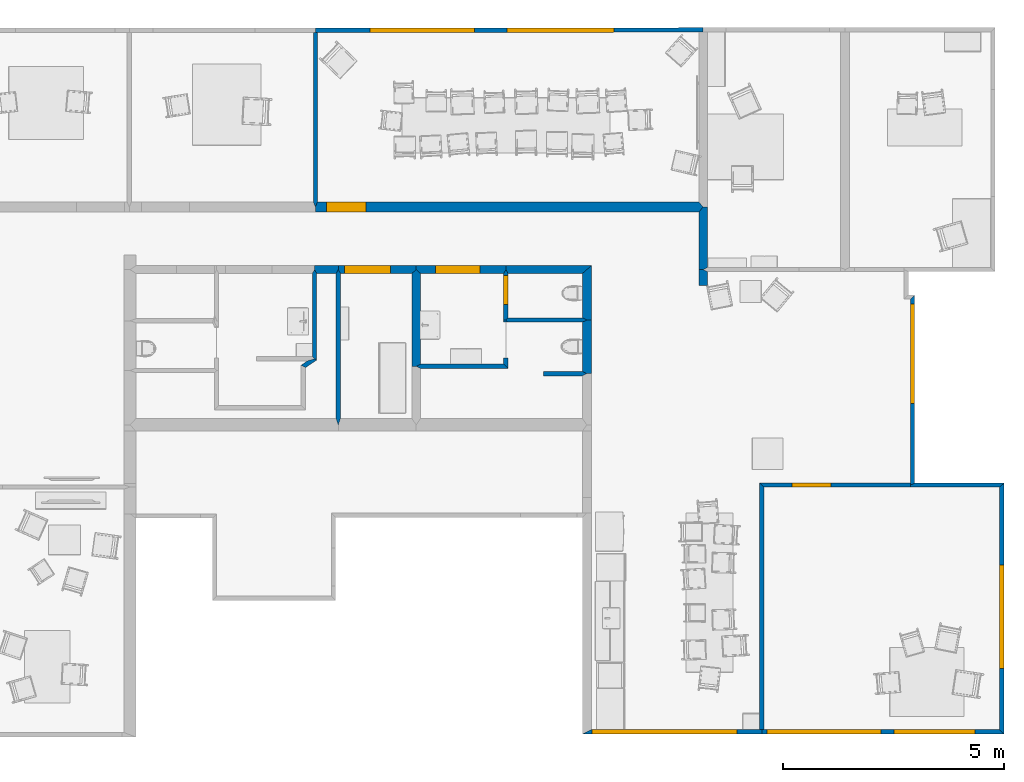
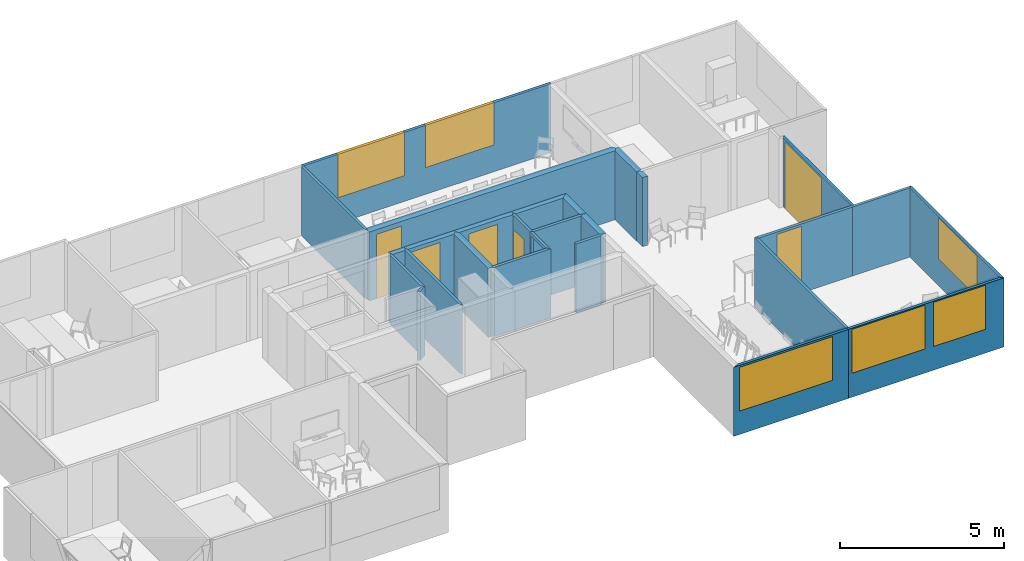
# One storey, part 4 of 26: 27 walls, 6 doors, 6 windows, 13 openings.
"""IFC2X3 building model written with IfcOpenShell, lengths in metres."""

from ifc_helpers import new_model, si_unit, direction, frame, origin_with_axes, place, context, subcontext, project, spatial, polyline, outline, extrude, type_object, element, fill, save


model = new_model("IFC2X3")

# Units and contexts
model_context = context("Model", 3, precision=1e-05, world=origin_with_axes(), true_north=direction((0.996, -0.093, 0.0)))
body_context = subcontext(model_context, "Body", "Model", "MODEL_VIEW")
ifc_project = project(units=[si_unit("AREAUNIT", "SQUARE_METRE"), si_unit("LENGTHUNIT", "METRE")], contexts=[model_context])

# Site, building, storey
site_placement = place(None, origin_with_axes())
site = spatial("IfcSite", under=ifc_project, at=site_placement, Name="Site", CompositionType="ELEMENT")
building_placement = place(site_placement, origin_with_axes())
building = spatial("IfcBuilding", under=site, at=building_placement, Name="Building", CompositionType="ELEMENT")
storey_placement = place(building_placement, frame((0.0, 0.0, 0.0500001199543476), z_axis=(0.0, 0.0, 1.0), x_axis=(1.0, 0.0, 0.0)))
storey = spatial("IfcBuildingStorey", under=building, at=storey_placement, Name="Story 0", CompositionType="ELEMENT", Elevation=0.0500000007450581)

# Wall, opening
wall_type_1 = type_object("IfcWallType", PredefinedType="STANDARD")
wall_1_placement = place(storey_placement, frame((18.5151852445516, 4.59033520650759, 0.0), z_axis=(0.0, 0.0, 1.0), x_axis=(1.0, 0.0, 0.0)))
wall_1 = element("IfcWallStandardCase", 1, at=wall_1_placement, inside=storey, type_object=wall_type_1, Name="Wall", context=body_context, shape_type="SweptSolid", body=[
    extrude(outline(polyline([(0.0, 0.0), (0.0500000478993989, 4.40236300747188e-07), (0.0999990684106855, -0.0499995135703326), (0.100000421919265, -1.09863097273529), (4.81289983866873e-07, -0.998630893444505), (0.0, 0.0)])), origin_with_axes(), (0.0, 0.0, 1.0), 2.57293934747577),
])
opening_1_placement = place(wall_1_placement, frame((0.0, -0.0499994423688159, 0.0), z_axis=(0.0, 0.0, 1.0), x_axis=(0.0, -0.999999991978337, 0.0)))
element("IfcOpeningElement", 2, at=opening_1_placement, cuts=wall_1, Name="OpeningElement", ObjectType="OPENING", context=body_context, shape_type="SweptSolid", body=[
    extrude(outline(polyline([(2.52944366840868e-16, 0.0), (0.804700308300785, 0.0), (0.804700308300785, 2.4519829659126), (2.52944366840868e-16, 2.4519829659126), (2.52944366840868e-16, 0.0)])), frame((0.0, 0.0, 0.0), z_axis=(0.0, -1.0, 0.0), x_axis=(1.0, 0.0, 0.0)), (0.0, 0.0, -1.0), 0.100098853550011),
])

# Walls
wall_type_2 = type_object("IfcWallType", PredefinedType="STANDARD")
wall_2_placement = place(storey_placement, frame((16.6355927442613, 3.49170269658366, 0.0), z_axis=(0.0, 0.0, 1.0), x_axis=(1.0, 0.0, 0.0)))
element("IfcWallStandardCase", 3, at=wall_2_placement, inside=storey, type_object=wall_type_2, Name="Wall", context=body_context, shape_type="SweptSolid", body=[
    extrude(outline(polyline([(0.0, 0.0), (-0.098819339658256, 0.0499996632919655), (6.93307526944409e-08, 0.100000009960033), (1.87959298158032, 0.10000161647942), (1.9795929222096, 1.53718863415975e-06), (0.0, 0.0)])), origin_with_axes(), (0.0, 0.0, 1.0), 2.57293934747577),
])
wall_type_3 = type_object("IfcWallType", PredefinedType="STANDARD")
wall_3_placement = place(storey_placement, frame((20.2917802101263, 3.42640413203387, 0.0), z_axis=(0.0, 0.0, 1.0), x_axis=(1.0, 0.0, 0.0)))
element("IfcWallStandardCase", 4, at=wall_3_placement, inside=storey, type_object=wall_type_3, Name="Wall", context=body_context, shape_type="SweptSolid", body=[
    extrude(outline(polyline([(0.0, 0.0), (-2.24617384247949e-07, 1.11393271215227), (0.101291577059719, 1.16393272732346), (0.202582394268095, 1.1639328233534), (0.202582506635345, -0.0500003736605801), (0.10129173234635, -0.0499999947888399), (0.0, 0.0)])), origin_with_axes(), (0.0, 0.0, 1.0), 2.57293934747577),
])
wall_type_4 = type_object("IfcWallType", PredefinedType="STANDARD")
wall_4_placement = place(storey_placement, frame((19.4136200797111, 3.32640448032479, 0.0), z_axis=(0.0, 0.0, 1.0), x_axis=(1.0, 0.0, 0.0)))
element("IfcWallStandardCase", 5, at=wall_4_placement, inside=storey, type_object=wall_type_4, Name="Wall", context=body_context, shape_type="SweptSolid", body=[
    extrude(outline(polyline([(0.0, 0.0), (6.93307526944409e-08, 0.100000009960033), (0.87816013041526, 0.0999996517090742), (0.979451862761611, 0.0499996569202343), (0.878160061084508, -3.58250959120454e-07), (0.0, 0.0)])), origin_with_axes(), (0.0, 0.0, 1.0), 2.57293934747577),
])
wall_type_5 = type_object("IfcWallType", PredefinedType="STANDARD")
wall_5_placement = place(storey_placement, frame((18.6151843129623, 4.54033569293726, 0.0), z_axis=(0.0, 0.0, 1.0), x_axis=(1.0, 0.0, 0.0)))
element("IfcWallStandardCase", 6, at=wall_5_placement, inside=storey, type_object=wall_type_5, Name="Wall", context=body_context, shape_type="SweptSolid", body=[
    extrude(outline(polyline([(0.0, 0.0), (-0.0499990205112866, 0.0499999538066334), (6.93307526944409e-08, 0.100000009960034), (1.67659574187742, 0.100001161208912), (1.77788747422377, 0.0500011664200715), (1.67659567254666, 1.15124887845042e-06), (0.0, 0.0)])), origin_with_axes(), (0.0, 0.0, 1.0), 2.57293934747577),
])
wall_type_6 = type_object("IfcWallType", PredefinedType="STANDARD")
wall_6_placement = place(storey_placement, frame((22.9254655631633, 5.36495526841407, 0.0), z_axis=(0.0, 0.0, 1.0), x_axis=(1.0, 0.0, 0.0)))
element("IfcWallStandardCase", 7, at=wall_6_placement, inside=storey, type_object=wall_type_6, Name="Wall", context=body_context, shape_type="SweptSolid", body=[
    extrude(outline(polyline([(0.0, 0.0), (4.62721612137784e-07, 0.363935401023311), (0.0947396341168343, 0.363935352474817), (0.18948112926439, 0.317553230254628), (0.189480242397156, -2.68774509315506e-07), (0.0, 0.0)])), origin_with_axes(), (0.0, 0.0, 1.0), 2.57293934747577),
])

# Wall, opening, door
wall_type_7 = type_object("IfcWallType", PredefinedType="STANDARD")
wall_7_placement = place(storey_placement, frame((14.2580460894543, 7.02928854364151, 0.0), z_axis=(0.0, 0.0, 1.0), x_axis=(1.0, 0.0, 0.0)))
wall_7 = element("IfcWallStandardCase", 8, at=wall_7_placement, inside=storey, type_object=wall_type_7, Name="Wall", context=body_context, shape_type="SweptSolid", body=[
    extrude(outline(polyline([(0.0, 0.0), (-1.89992015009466e-07, 0.114025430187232), (0.0463828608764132, 0.228050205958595), (8.66741843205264, 0.228054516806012), (8.76215973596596, 0.114029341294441), (8.66741881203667, 3.65643154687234e-06), (0.0, 0.0)])), origin_with_axes(), (0.0, 0.0, 1.0), 2.57293934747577),
])
opening_2_placement = place(wall_7_placement, frame((0.253527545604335, 0.0, 0.0), z_axis=(0.0, 0.0, 1.0), x_axis=(0.999999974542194, 0.0, 0.0)))
opening_2 = element("IfcOpeningElement", 9, at=opening_2_placement, cuts=wall_7, Name="OpeningElement", ObjectType="OPENING", context=body_context, shape_type="SweptSolid", body=[
    extrude(outline(polyline([(0.0, 0.0), (0.890961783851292, 0.0), (0.890961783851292, 2.4010344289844), (0.0, 2.4010344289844), (0.0, 0.0)])), frame((0.0, 0.0, 0.0), z_axis=(0.0, -1.0, 0.0), x_axis=(1.0, 0.0, 0.0)), (0.0, 0.0, -1.0), 0.228150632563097),
])
door_style_1 = type_object("IfcDoorStyle", Name="1c849949-cf20-4e59-9c2f-f6cb972a5123", ConstructionType="NOTDEFINED", OperationType="NOTDEFINED", ParameterTakesPrecedence=False, Sizeable=False)
door_1_placement = place(opening_2_placement, origin_with_axes())
door_1 = element("IfcDoor", 10, at=door_1_placement, inside=storey, type_object=door_style_1, Name="Door", OverallHeight=2.40103490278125, OverallWidth=0.890961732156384, context=body_context, shape_type="SweptSolid", body=[
    extrude(outline(polyline([(0.0, 0.0), (-0.890961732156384, 0.0), (-0.890961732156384, 2.4010343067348), (0.0, 2.4010343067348), (0.0, 0.0)])), frame((0.0, 0.228050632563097, 0.0), z_axis=(0.0, 1.0, 0.0), x_axis=(-1.0, 0.0, 0.0)), (0.0, 0.0, -1.0), 0.228050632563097),
])
fill(opening_2, door_1)

# Wall, opening, window
wall_type_8 = type_object("IfcWallType", PredefinedType="STANDARD")
wall_8_placement = place(storey_placement, frame((20.2917828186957, -4.76651196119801, 0.0), z_axis=(0.0, 0.0, 1.0), x_axis=(1.0, 0.0, 0.0)))
wall_8 = element("IfcWallStandardCase", 11, at=wall_8_placement, inside=storey, type_object=wall_type_8, Name="Wall", context=body_context, shape_type="SweptSolid", body=[
    extrude(outline(polyline([(0.0, 0.0), (0.202583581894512, 0.0999997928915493), (4.00875872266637, 0.100001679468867), (4.05514107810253, 0.100001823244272), (4.05514100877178, 1.81328423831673e-06), (0.0, 0.0)])), origin_with_axes(), (0.0, 0.0, 1.0), 2.57293934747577),
])
opening_3_placement = place(wall_8_placement, frame((3.49161446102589, 0.100001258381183, 0.872057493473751), z_axis=(0.0, 0.0, 1.0), x_axis=(-0.999999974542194, 0.0, 0.0)))
opening_3 = element("IfcOpeningElement", 12, at=opening_3_placement, cuts=wall_8, Name="OpeningElement", ObjectType="OPENING", context=body_context, shape_type="SweptSolid", body=[
    extrude(outline(polyline([(-3.5527136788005e-15, 0.0), (3.27666114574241, 0.0), (3.27666114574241, 1.63146414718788), (-3.5527136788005e-15, 1.63146414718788), (-3.5527136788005e-15, 0.0)])), frame((0.0, 0.0, 0.0), z_axis=(0.0, -1.0, 0.0), x_axis=(1.0, 0.0, 0.0)), (0.0, 0.0, -1.0), 0.100099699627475),
])
window_style_1 = type_object("IfcWindowStyle", Name="204bdb7a-f476-43cc-86a5-211619529f63", ConstructionType="ALUMINIUM", OperationType="SINGLE_PANEL", ParameterTakesPrecedence=True, Sizeable=True)
window_1_placement = place(opening_3_placement, origin_with_axes())
window_1 = element("IfcWindow", 13, at=window_1_placement, inside=storey, type_object=window_style_1, Name="Window", OverallHeight=1.5, OverallWidth=0.5, context=body_context, shape_type="SweptSolid", body=[
    extrude(outline(polyline([(0.0, 0.0), (-3.27666092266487, 0.0), (-3.27666092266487, 1.63146406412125), (0.0, 1.63146406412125), (0.0, 0.0)])), frame((0.0, 0.0999996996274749, 0.0), z_axis=(0.0, 1.0, 0.0), x_axis=(-1.0, 0.0, 0.0)), (0.0, 0.0, -1.0), 0.0999996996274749),
])
fill(opening_3, window_1)

# Wall
wall_type_9 = type_object("IfcWallType", PredefinedType="STANDARD")
wall_9_placement = place(storey_placement, frame((20.2917800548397, 4.64033685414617, 0.0), z_axis=(0.0, 0.0, 1.0), x_axis=(1.0, 0.0, 0.0)))
element("IfcWallStandardCase", 14, at=wall_9_placement, inside=storey, type_object=wall_type_9, Name="Wall", context=body_context, shape_type="SweptSolid", body=[
    extrude(outline(polyline([(0.0, 0.0), (3.13097373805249e-07, 1.00022899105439), (0.202582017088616, 1.17687621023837), (0.202582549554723, -0.0499998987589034), (0.101291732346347, -0.0499999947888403), (0.0, 0.0)])), origin_with_axes(), (0.0, 0.0, 1.0), 2.57293934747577),
])

# Wall, opening, door
wall_type_10 = type_object("IfcWallType", PredefinedType="STANDARD")
wall_10_placement = place(storey_placement, frame((27.7038624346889, 5.06036561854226, 0.0), z_axis=(0.0, 0.0, 1.0), x_axis=(1.0, 0.0, 0.0)))
wall_10 = element("IfcWallStandardCase", 15, at=wall_10_placement, inside=storey, type_object=wall_type_10, Name="Wall", context=body_context, shape_type="SweptSolid", body=[
    extrude(outline(polyline([(0.0, 0.0), (0.100000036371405, 0.0999994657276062), (0.100001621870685, -4.15631863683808), (1.99313689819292e-06, -4.20270094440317), (1.61191065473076e-06, -4.15631856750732), (0.0, 0.0)])), origin_with_axes(), (0.0, 0.0, 1.0), 2.57293934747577),
])
opening_4_placement = place(wall_10_placement, frame((0.0, -0.113515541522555, 0.0), z_axis=(0.0, 0.0, 1.0), x_axis=(0.0, -0.999999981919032, 0.0)))
opening_4 = element("IfcOpeningElement", 16, at=opening_4_placement, cuts=wall_10, Name="OpeningElement", ObjectType="OPENING", context=body_context, shape_type="SweptSolid", body=[
    extrude(outline(polyline([(2.84963906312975e-16, 0.0), (2.24195503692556, 0.0), (2.24195503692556, 2.50352196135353), (2.84963906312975e-16, 2.50352196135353), (2.84963906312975e-16, 0.0)])), frame((0.0, 0.0, 0.0), z_axis=(0.0, -1.0, 0.0), x_axis=(1.0, 0.0, 0.0)), (0.0, 0.0, -1.0), 0.100100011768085),
])
door_style_2 = type_object("IfcDoorStyle", Name="232b99c5-3983-4ba4-8aef-1d8805e3229f", ConstructionType="NOTDEFINED", OperationType="NOTDEFINED", ParameterTakesPrecedence=False, Sizeable=False)
door_2_placement = place(opening_4_placement, origin_with_axes())
door_2 = element("IfcDoor", 17, at=door_2_placement, inside=storey, type_object=door_style_2, Name="Door", OverallHeight=2.50352187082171, OverallWidth=2.24195586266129, context=body_context, shape_type="SweptSolid", body=[
    extrude(outline(polyline([(-1.48195190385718e-16, 0.0), (-2.24195491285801, 0.0), (-2.24195491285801, 2.50352187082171), (-1.48195190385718e-16, 2.50352187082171), (-1.48195190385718e-16, 0.0)])), frame((0.0, 0.100000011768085, 0.0), z_axis=(0.0, 1.0, 0.0), x_axis=(-1.0, 0.0, 0.0)), (0.0, 0.0, -1.0), 0.100000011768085),
])
fill(opening_4, door_2)

wall_type_11 = type_object("IfcWallType", PredefinedType="STANDARD")
wall_11_placement = place(storey_placement, frame((14.8254864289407, 5.64056414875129, 0.0), z_axis=(0.0, 0.0, 1.0), x_axis=(1.0, 0.0, 0.0)))
wall_11 = element("IfcWallStandardCase", 18, at=wall_11_placement, inside=storey, type_object=wall_type_11, Name="Wall", context=body_context, shape_type="SweptSolid", body=[
    extrude(outline(polyline([(0.0, 0.0), (-0.0499999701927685, 0.0883235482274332), (-0.0499999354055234, 0.17664706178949), (1.71128521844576, 0.1766472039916), (1.71128518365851, 0.0883236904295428), (1.61246581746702, 3.10081111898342e-07), (0.0, 0.0)])), origin_with_axes(), (0.0, 0.0, 1.0), 2.57293934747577),
])
opening_5_placement = place(wall_11_placement, frame((1.12567240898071, 0.176647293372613, 0.0), z_axis=(0.0, 0.0, 1.0), x_axis=(-0.999999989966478, 0.0, 0.0)))
opening_5 = element("IfcOpeningElement", 19, at=opening_5_placement, cuts=wall_11, Name="OpeningElement", ObjectType="OPENING", context=body_context, shape_type="SweptSolid", body=[
    extrude(outline(polyline([(-1.77635683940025e-15, 0.0), (1.03850277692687, 0.0), (1.03850277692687, 2.43175542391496), (-1.77635683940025e-15, 2.43175542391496), (-1.77635683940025e-15, 0.0)])), frame((0.0, 0.0, 0.0), z_axis=(0.0, -1.0, 0.0), x_axis=(1.0, 0.0, 0.0)), (0.0, 0.0, -1.0), 0.176747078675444),
])
door_style_3 = type_object("IfcDoorStyle", Name="d86f6bd5-2f3b-4dc0-83bb-9f48bc54669e", ConstructionType="NOTDEFINED", OperationType="NOTDEFINED", ParameterTakesPrecedence=False, Sizeable=False)
door_3_placement = place(opening_5_placement, origin_with_axes())
door_3 = element("IfcDoor", 20, at=door_3_placement, inside=storey, type_object=door_style_3, Name="Door", OverallHeight=2.4317560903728, OverallWidth=1.03850272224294, context=body_context, shape_type="SweptSolid", body=[
    extrude(outline(polyline([(1.77635683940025e-15, 0.0), (-1.03850272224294, 0.0), (-1.03850272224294, 2.43175537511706), (1.77635683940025e-15, 2.43175537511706), (1.77635683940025e-15, 0.0)])), frame((0.0, 0.176647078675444, 0.0), z_axis=(0.0, 1.0, 0.0), x_axis=(-1.0, 0.0, 0.0)), (0.0, 0.0, -1.0), 0.176647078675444),
])
fill(opening_5, door_3)

# Walls
wall_type_12 = type_object("IfcWallType", PredefinedType="STANDARD")
wall_12_placement = place(storey_placement, frame((22.9254660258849, 5.72889066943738, 0.0), z_axis=(0.0, 0.0, 1.0), x_axis=(1.0, 0.0, 0.0)))
element("IfcWallStandardCase", 21, at=wall_12_placement, inside=storey, type_object=wall_type_12, Name="Wall", context=body_context, shape_type="SweptSolid", body=[
    extrude(outline(polyline([(0.0, 0.0), (-1.12439393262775e-06, 1.30040153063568), (0.0947397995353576, 1.41442721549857), (0.189478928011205, 1.4144266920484), (0.189479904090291, 0.0463825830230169), (0.0947391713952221, -4.85484941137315e-08), (0.0, 0.0)])), origin_with_axes(), (0.0, 0.0, 1.0), 2.57293934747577),
])
wall_type_13 = type_object("IfcWallType", PredefinedType="STANDARD")
wall_13_placement = place(storey_placement, frame((14.288998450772, 5.64056378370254, 0.0), z_axis=(0.0, 0.0, 1.0), x_axis=(1.0, 0.0, 0.0)))
element("IfcWallStandardCase", 22, at=wall_13_placement, inside=storey, type_object=wall_type_13, Name="Wall", context=body_context, shape_type="SweptSolid", body=[
    extrude(outline(polyline([(0.0, 0.0), (-0.0500000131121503, 0.0883230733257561), (-0.0499999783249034, 0.176646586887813), (0.486488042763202, 0.176647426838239), (0.486488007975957, 0.0883239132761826), (0.436488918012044, 3.485407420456e-07), (0.0, 0.0)])), origin_with_axes(), (0.0, 0.0, 1.0), 2.57293934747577),
])

# Wall, opening, door
wall_type_14 = type_object("IfcWallType", PredefinedType="STANDARD")
wall_14_placement = place(storey_placement, frame((16.6355919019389, 5.64056458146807, 0.0), z_axis=(0.0, 0.0, 1.0), x_axis=(1.0, 0.0, 0.0)))
wall_14 = element("IfcWallStandardCase", 23, at=wall_14_placement, inside=storey, type_object=wall_type_14, Name="Wall", context=body_context, shape_type="SweptSolid", body=[
    extrude(outline(polyline([(0.0, 0.0), (-0.0988202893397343, 0.0883232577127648), (-0.0988202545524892, 0.176646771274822), (1.92959290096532, 0.176647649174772), (1.92959286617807, 0.0883241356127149), (1.87959282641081, 6.5671603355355e-07), (0.0, 0.0)])), origin_with_axes(), (0.0, 0.0, 1.0), 2.57293934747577),
])
opening_6_placement = place(wall_14_placement, frame((1.34609338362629, 0.176647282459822, 0.0), z_axis=(0.0, 0.0, 1.0), x_axis=(-0.999999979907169, 0.0, 0.0)))
opening_6 = element("IfcOpeningElement", 24, at=opening_6_placement, cuts=wall_14, Name="OpeningElement", ObjectType="OPENING", context=body_context, shape_type="SweptSolid", body=[
    extrude(outline(polyline([(3.5527136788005e-15, 0.0), (1.01151390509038, 0.0), (1.01151390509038, 2.39816944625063), (3.5527136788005e-15, 2.39816944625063), (3.5527136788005e-15, 0.0)])), frame((0.0, 0.0, 0.0), z_axis=(0.0, -1.0, 0.0), x_axis=(1.0, 0.0, 0.0)), (0.0, 0.0, -1.0), 0.176746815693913),
])
door_style_4 = type_object("IfcDoorStyle", Name="e95504ce-91a6-4195-b1dc-d6b99bec8677", ConstructionType="NOTDEFINED", OperationType="NOTDEFINED", ParameterTakesPrecedence=False, Sizeable=False)
door_4_placement = place(opening_6_placement, origin_with_axes())
door_4 = element("IfcDoor", 25, at=door_4_placement, inside=storey, type_object=door_style_4, Name="Door", OverallHeight=2.39817006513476, OverallWidth=1.01151384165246, context=body_context, shape_type="SweptSolid", body=[
    extrude(outline(polyline([(-3.5527136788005e-15, 0.0), (-1.01151384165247, 0.0), (-1.01151384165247, 2.39816934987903), (-3.5527136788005e-15, 2.39816934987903), (-3.5527136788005e-15, 0.0)])), frame((0.0, 0.176646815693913, 0.0), z_axis=(0.0, 1.0, 0.0), x_axis=(-1.0, 0.0, 0.0)), (0.0, 0.0, -1.0), 0.176646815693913),
])
fill(opening_6, door_4)

# Walls
wall_type_15 = type_object("IfcWallType", PredefinedType="STANDARD")
wall_15_placement = place(storey_placement, frame((24.3005406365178, 0.904045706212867, 0.0), z_axis=(0.0, 0.0, 1.0), x_axis=(1.0, 0.0, 0.0)))
element("IfcWallStandardCase", 26, at=wall_15_placement, inside=storey, type_object=wall_type_15, Name="Wall", context=body_context, shape_type="SweptSolid", body=[
    extrude(outline(polyline([(0.0, 0.0), (0.092765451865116, -0.0927647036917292), (0.0927655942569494, -5.57055593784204), (0.0463832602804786, -5.57055584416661), (9.0484431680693e-07, -5.57055598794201), (0.0, 0.0)])), origin_with_axes(), (0.0, 0.0, 1.0), 2.57293934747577),
])
wall_type_16 = type_object("IfcWallType", PredefinedType="STANDARD")
wall_16_placement = place(storey_placement, frame((18.6151847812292, 5.64056564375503, 0.0), z_axis=(0.0, 0.0, 1.0), x_axis=(1.0, 0.0, 0.0)))
element("IfcWallStandardCase", 27, at=wall_16_placement, inside=storey, type_object=wall_type_16, Name="Wall", context=body_context, shape_type="SweptSolid", body=[
    extrude(outline(polyline([(0.0, 0.0), (-0.0500000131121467, 0.088323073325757), (-0.0499999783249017, 0.176646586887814), (1.87917729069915, 0.176647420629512), (1.67659558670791, 2.01445525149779e-07), (0.0, 0.0)])), origin_with_axes(), (0.0, 0.0, 1.0), 2.57293934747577),
])

# Wall, opening, door
wall_type_17 = type_object("IfcWallType", PredefinedType="STANDARD")
wall_17_placement = place(storey_placement, frame((24.3933060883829, 0.811281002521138, 0.0), z_axis=(0.0, 0.0, 1.0), x_axis=(1.0, 0.0, 0.0)))
wall_17 = element("IfcWallStandardCase", 28, at=wall_17_placement, inside=storey, type_object=wall_type_17, Name="Wall", context=body_context, shape_type="SweptSolid", body=[
    extrude(outline(polyline([(0.0, 0.0), (-0.092765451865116, 0.0927647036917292), (3.31055795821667, 0.0927660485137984), (3.31055833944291, 0.046383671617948), (3.31055872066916, 1.29472209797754e-06), (0.0, 0.0)])), origin_with_axes(), (0.0, 0.0, 1.0), 2.57293934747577),
])
opening_7_placement = place(wall_17_placement, frame((0.640690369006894, 0.0, 0.0), z_axis=(0.0, 0.0, 1.0), x_axis=(0.999999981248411, 0.0, 0.0)))
opening_7 = element("IfcOpeningElement", 29, at=opening_7_placement, cuts=wall_17, Name="OpeningElement", ObjectType="OPENING", context=body_context, shape_type="SweptSolid", body=[
    extrude(outline(polyline([(0.0, 0.0), (0.876622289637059, 0.0), (0.876622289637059, 2.48644332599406), (0.0, 2.48644332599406), (0.0, 0.0)])), frame((0.0, 0.0, 0.0), z_axis=(0.0, -1.0, 0.0), x_axis=(1.0, 0.0, 0.0)), (0.0, 0.0, -1.0), 0.0928647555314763),
])
door_style_5 = type_object("IfcDoorStyle", Name="af4f0de5-ad6b-47c7-bd32-f54deca57398", ConstructionType="NOTDEFINED", OperationType="NOTDEFINED", ParameterTakesPrecedence=False, Sizeable=False)
door_5_placement = place(opening_7_placement, origin_with_axes())
door_5 = element("IfcDoor", 30, at=door_5_placement, inside=storey, type_object=door_style_5, Name="Door", OverallHeight=2.48644323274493, OverallWidth=0.876622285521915, context=body_context, shape_type="SweptSolid", body=[
    extrude(outline(polyline([(0.0, 0.0), (-0.876622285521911, 0.0), (-0.876622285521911, 2.48644323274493), (0.0, 2.48644323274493), (0.0, 0.0)])), frame((0.0, 0.0927647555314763, 0.0), z_axis=(0.0, 1.0, 0.0), x_axis=(-1.0, 0.0, 0.0)), (0.0, 0.0, -1.0), 0.0927647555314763),
])
fill(opening_7, door_5)

# Walls
wall_type_18 = type_object("IfcWallType", PredefinedType="STANDARD")
wall_18_placement = place(storey_placement, frame((14.725487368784, 5.64056413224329, 0.0), z_axis=(0.0, 0.0, 1.0), x_axis=(1.0, 0.0, 0.0)))
element("IfcWallStandardCase", 31, at=wall_18_placement, inside=storey, type_object=wall_type_18, Name="Wall", context=body_context, shape_type="SweptSolid", body=[
    extrude(outline(polyline([(0.0, 0.0), (0.0499990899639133, 0.0883235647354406), (0.0999990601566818, 1.65080074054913e-08), (0.100000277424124, -3.27673644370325), (0.0500003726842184, -3.41978359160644), (2.67464091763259e-07, -3.2767363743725), (0.0, 0.0)])), origin_with_axes(), (0.0, 0.0, 1.0), 2.57293934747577),
])
wall_type_19 = type_object("IfcWallType", PredefinedType="STANDARD")
wall_19_placement = place(storey_placement, frame((16.4379531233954, 3.54170257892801, 0.0), z_axis=(0.0, 0.0, 1.0), x_axis=(1.0, 0.0, 0.0)))
element("IfcWallStandardCase", 32, at=wall_19_placement, inside=storey, type_object=wall_type_19, Name="Wall", context=body_context, shape_type="SweptSolid", body=[
    extrude(outline(polyline([(0.0, 0.0), (-8.76987687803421e-07, 2.09886187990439), (0.0988184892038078, 2.18718526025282), (0.197638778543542, 2.09886200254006), (0.19763969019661, 0.0500001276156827), (0.0988202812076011, -2.19052385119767e-07), (0.0, 0.0)])), origin_with_axes(), (0.0, 0.0, 1.0), 2.57293934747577),
])

# Wall, opening, door
wall_type_20 = type_object("IfcWallType", PredefinedType="STANDARD")
wall_20_placement = place(storey_placement, frame((18.5151852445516, 4.59033520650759, 0.0), z_axis=(0.0, 0.0, 1.0), x_axis=(1.0, 0.0, 0.0)))
wall_20 = element("IfcWallStandardCase", 33, at=wall_20_placement, inside=storey, type_object=wall_type_20, Name="Wall", context=body_context, shape_type="SweptSolid", body=[
    extrude(outline(polyline([(0.0, 0.0), (-5.16201840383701e-07, 1.05023003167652), (0.0499995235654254, 1.1385535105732), (0.0999995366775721, 1.05023043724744), (0.0999991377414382, 0.0500004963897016), (0.0500000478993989, 4.40236300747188e-07), (0.0, 0.0)])), origin_with_axes(), (0.0, 0.0, 1.0), 2.57293934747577),
])
opening_8_placement = place(wall_20_placement, frame((0.0, 1.00794464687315, 0.0), z_axis=(0.0, 0.0, 1.0), x_axis=(0.0, -1.00000002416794, 0.0)))
opening_8 = element("IfcOpeningElement", 34, at=opening_8_placement, cuts=wall_20, Name="OpeningElement", ObjectType="OPENING", context=body_context, shape_type="SweptSolid", body=[
    extrude(outline(polyline([(-1.43257411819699e-16, 0.0), (0.65740030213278, 0.0), (0.65740030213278, 2.05067071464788), (-1.43257411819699e-16, 2.05067071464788), (-1.43257411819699e-16, 0.0)])), frame((0.0, 0.0, 0.0), z_axis=(0.0, -1.0, 0.0), x_axis=(1.0, 0.0, 0.0)), (0.0, 0.0, -1.0), 0.10009913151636),
])
door_style_6 = type_object("IfcDoorStyle", Name="ab834f8e-c9de-43c4-bacf-a57434467087", ConstructionType="NOTDEFINED", OperationType="NOTDEFINED", ParameterTakesPrecedence=False, Sizeable=False)
door_6_placement = place(opening_8_placement, origin_with_axes())
door_6 = element("IfcDoor", 35, at=door_6_placement, inside=storey, type_object=door_style_6, Name="Door", OverallHeight=2.0506708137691, OverallWidth=0.657400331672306, context=body_context, shape_type="SweptSolid", body=[
    extrude(outline(polyline([(-9.3077062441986e-17, 0.0), (-0.657400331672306, 0.0), (-0.657400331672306, 2.0506708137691), (-9.3077062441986e-17, 2.0506708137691), (-9.3077062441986e-17, 0.0)])), frame((0.0, 0.0999991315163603, 0.0), z_axis=(0.0, 1.0, 0.0), x_axis=(-1.0, 0.0, 0.0)), (0.0, 0.0, -1.0), 0.0999991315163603),
])
fill(opening_8, door_6)

# Wall
wall_type_21 = type_object("IfcWallType", PredefinedType="STANDARD")
wall_21_placement = place(storey_placement, frame((27.7038648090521, 0.811282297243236, 0.0), z_axis=(0.0, 0.0, 1.0), x_axis=(1.0, 0.0, 0.0)))
element("IfcWallStandardCase", 36, at=wall_21_placement, inside=storey, type_object=wall_type_21, Name="Wall", context=body_context, shape_type="SweptSolid", body=[
    extrude(outline(polyline([(0.0, 0.0), (-3.81226243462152e-07, 0.04638237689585), (0.0999992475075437, 0.0927646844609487), (2.11718401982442, 0.0927653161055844), (2.01718287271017, 8.03322156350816e-07), (0.0, 0.0)])), origin_with_axes(), (0.0, 0.0, 1.0), 2.57293934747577),
])

# Wall, opening, window
wall_type_22 = type_object("IfcWallType", PredefinedType="STANDARD")
wall_22_placement = place(storey_placement, frame((29.7210476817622, 0.811283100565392, 0.0), z_axis=(0.0, 0.0, 1.0), x_axis=(1.0, 0.0, 0.0)))
wall_22 = element("IfcWallStandardCase", 37, at=wall_22_placement, inside=storey, type_object=wall_type_22, Name="Wall", context=body_context, shape_type="SweptSolid", body=[
    extrude(outline(polyline([(0.0, 0.0), (0.100001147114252, 0.092764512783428), (0.100002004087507, -5.57779124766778), (2.05272838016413e-06, -5.47779128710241), (0.0, 0.0)])), origin_with_axes(), (0.0, 0.0, 1.0), 2.57293934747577),
])
opening_9_placement = place(wall_22_placement, frame((0.0, -1.7534564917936, 0.993322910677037), z_axis=(0.0, 0.0, 1.0), x_axis=(0.0, -1.00000000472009, 0.0)))
opening_9 = element("IfcOpeningElement", 38, at=opening_9_placement, cuts=wall_22, Name="OpeningElement", ObjectType="OPENING", context=body_context, shape_type="SweptSolid", body=[
    extrude(outline(polyline([(7.83505476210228e-18, 0.0), (2.33859157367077, 0.0), (2.33859157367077, 1.53574250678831), (7.83505476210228e-18, 1.53574250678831), (7.83505476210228e-18, 0.0)])), frame((0.0, 0.0, 0.0), z_axis=(0.0, -1.0, 0.0), x_axis=(1.0, 0.0, 0.0)), (0.0, 0.0, -1.0), 0.100099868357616),
])
window_style_2 = type_object("IfcWindowStyle", Name="568fff0b-0eba-4694-82b7-b897b7b18b13", ConstructionType="ALUMINIUM", OperationType="SINGLE_PANEL", ParameterTakesPrecedence=True, Sizeable=True)
window_2_placement = place(opening_9_placement, origin_with_axes())
window_2 = element("IfcWindow", 39, at=window_2_placement, inside=storey, type_object=window_style_2, Name="Window", OverallHeight=1.5, OverallWidth=0.5, context=body_context, shape_type="SweptSolid", body=[
    extrude(outline(polyline([(-4.68620978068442e-17, 0.0), (-2.33859144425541, 0.0), (-2.33859144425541, 1.53574252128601), (-4.68620978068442e-17, 1.53574252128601), (-4.68620978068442e-17, 0.0)])), frame((0.0, 0.0999998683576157, 0.0), z_axis=(0.0, 1.0, 0.0), x_axis=(-1.0, 0.0, 0.0)), (0.0, 0.0, -1.0), 0.0999998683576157),
])
fill(opening_9, window_2)

# Wall, openings, windows
wall_type_23 = type_object("IfcWallType", PredefinedType="STANDARD")
wall_23_placement = place(storey_placement, frame((24.3469238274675, -4.76651014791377, 0.0), z_axis=(0.0, 0.0, 1.0), x_axis=(1.0, 0.0, 0.0)))
wall_23 = element("IfcWallStandardCase", 40, at=wall_23_placement, inside=storey, type_object=wall_type_23, Name="Wall", context=body_context, shape_type="SweptSolid", body=[
    extrude(outline(polyline([(0.0, 0.0), (6.93307526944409e-08, 0.100000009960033), (0.0463824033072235, 0.0999999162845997), (5.3741259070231, 0.100001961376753), (5.47412585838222, 2.00081138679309e-06), (0.0, 0.0)])), origin_with_axes(), (0.0, 0.0, 1.0), 2.57293934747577),
])
opening_10_placement = place(wall_23_placement, frame((4.82009254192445, 0.100001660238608, 0.887529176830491), z_axis=(0.0, 0.0, 1.0), x_axis=(-0.999999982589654, 0.0, 0.0)))
opening_10 = element("IfcOpeningElement", 41, at=opening_10_placement, cuts=wall_23, Name="OpeningElement", ObjectType="OPENING", context=body_context, shape_type="SweptSolid", body=[
    extrude(outline(polyline([(0.0, 0.0), (1.83275280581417, 0.0), (1.83275280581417, 1.64153635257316), (0.0, 1.64153635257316), (0.0, 0.0)])), frame((0.0, 0.0, 0.0), z_axis=(0.0, -1.0, 0.0), x_axis=(1.0, 0.0, 0.0)), (0.0, 0.0, -1.0), 0.100099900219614),
])
opening_11_placement = place(wall_23_placement, frame((2.6979590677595, 0.100000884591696, 0.898242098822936), z_axis=(0.0, 0.0, 1.0), x_axis=(-0.999999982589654, 0.0, 0.0)))
opening_11 = element("IfcOpeningElement", 42, at=opening_11_placement, cuts=wall_23, Name="OpeningElement", ObjectType="OPENING", context=body_context, shape_type="SweptSolid", body=[
    extrude(outline(polyline([(0.0, 0.0), (2.58300384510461, 0.0), (2.58300384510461, 1.63082343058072), (0.0, 1.63082343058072), (0.0, 0.0)])), frame((0.0, 0.0, 0.0), z_axis=(0.0, -1.0, 0.0), x_axis=(1.0, 0.0, 0.0)), (0.0, 0.0, -1.0), 0.100099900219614),
])
window_style_3 = type_object("IfcWindowStyle", Name="151516ba-270d-4ec2-b67e-736c4c47fa3b", ConstructionType="ALUMINIUM", OperationType="SINGLE_PANEL", ParameterTakesPrecedence=True, Sizeable=True)
window_3_placement = place(opening_10_placement, origin_with_axes())
window_3 = element("IfcWindow", 43, at=window_3_placement, inside=storey, type_object=window_style_3, Name="Window", OverallHeight=1.5, OverallWidth=0.5, context=body_context, shape_type="SweptSolid", body=[
    extrude(outline(polyline([(0.0, 0.0), (-1.83275279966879, 0.0), (-1.83275279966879, 1.64153629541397), (0.0, 1.64153629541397), (0.0, 0.0)])), frame((0.0, 0.0999999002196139, 0.0), z_axis=(0.0, 1.0, 0.0), x_axis=(-1.0, 0.0, 0.0)), (0.0, 0.0, -1.0), 0.0999999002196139),
])
fill(opening_10, window_3)
window_style_4 = type_object("IfcWindowStyle", Name="cf576c3f-a35b-4171-8b06-7fcc7869b7bf", ConstructionType="ALUMINIUM", OperationType="SINGLE_PANEL", ParameterTakesPrecedence=True, Sizeable=True)
window_4_placement = place(opening_11_placement, origin_with_axes())
window_4 = element("IfcWindow", 44, at=window_4_placement, inside=storey, type_object=window_style_4, Name="Window", OverallHeight=1.5, OverallWidth=0.5, context=body_context, shape_type="SweptSolid", body=[
    extrude(outline(polyline([(-3.5527136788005e-15, 0.0), (-2.58300383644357, 0.0), (-2.58300383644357, 1.63082337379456), (-3.5527136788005e-15, 1.63082337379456), (-3.5527136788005e-15, 0.0)])), frame((0.0, 0.0999999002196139, 0.0), z_axis=(0.0, 1.0, 0.0), x_axis=(-1.0, 0.0, 0.0)), (0.0, 0.0, -1.0), 0.0999999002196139),
])
fill(opening_11, window_4)

# Walls
wall_type_24 = type_object("IfcWallType", PredefinedType="STANDARD")
wall_24_placement = place(storey_placement, frame((14.1889983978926, 5.64056337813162, 0.0), z_axis=(0.0, 0.0, 1.0), x_axis=(1.0, 0.0, 0.0)))
element("IfcWallStandardCase", 45, at=wall_24_placement, inside=storey, type_object=wall_type_24, Name="Wall", context=body_context, shape_type="SweptSolid", body=[
    extrude(outline(polyline([(0.0, 0.0), (0.050000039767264, 0.0883234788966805), (0.100000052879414, 4.05570924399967e-07), (0.100001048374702, -1.9528027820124), (0.0500012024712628, -1.9264396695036), (1.23215662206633e-06, -1.8764396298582), (0.0, 0.0)])), origin_with_axes(), (0.0, 0.0, 1.0), 2.57293934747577),
])
wall_type_25 = type_object("IfcWallType", PredefinedType="STANDARD")
wall_25_placement = place(storey_placement, frame((14.0366236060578, 3.51497005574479, 0.0), z_axis=(0.0, 0.0, 1.0), x_axis=(1.0, 0.0, 0.0)))
element("IfcWallStandardCase", 46, at=wall_25_placement, inside=storey, type_object=wall_type_25, Name="Wall", context=body_context, shape_type="SweptSolid", body=[
    extrude(outline(polyline([(0.0, 0.0), (-0.0999996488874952, 0.0527266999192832), (0.0408401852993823, 0.149153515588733), (0.20237599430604, 0.199153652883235), (0.25237584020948, 0.172790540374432), (0.0, 0.0)])), origin_with_axes(), (0.0, 0.0, 1.0), 2.57293934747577),
])
wall_type_26 = type_object("IfcWallType", PredefinedType="STANDARD")
wall_26_placement = place(storey_placement, frame((14.2116626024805, 11.0852210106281, 0.0), z_axis=(0.0, 0.0, 1.0), x_axis=(1.0, 0.0, 0.0)))
element("IfcWallStandardCase", 47, at=wall_26_placement, inside=storey, type_object=wall_type_26, Name="Wall", context=body_context, shape_type="SweptSolid", body=[
    extrude(outline(polyline([(0.0, 0.0), (0.0463822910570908, -5.68577108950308e-07), (0.0927647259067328, 5.34308306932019e-05), (0.0927663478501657, -3.82788226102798), (0.0463832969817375, -3.94190703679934), (1.67989722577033e-06, -3.82788207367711), (0.0, 0.0)])), origin_with_axes(), (0.0, 0.0, 1.0), 2.57293934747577),
])

# Wall, openings, windows
wall_type_27 = type_object("IfcWallType", PredefinedType="STANDARD")
wall_27_placement = place(storey_placement, frame((14.3044273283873, 11.0852744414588, 0.0), z_axis=(0.0, 0.0, 1.0), x_axis=(1.0, 0.0, 0.0)))
wall_27 = element("IfcWallStandardCase", 48, at=wall_27_placement, inside=storey, type_object=wall_type_27, Name="Wall", context=body_context, shape_type="SweptSolid", body=[
    extrude(outline(polyline([(0.0, 0.0), (-0.046382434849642, -5.39994078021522e-05), (-0.046498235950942, 0.0999459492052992), (8.71566115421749, 0.110094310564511), (8.71577600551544, 0.0100944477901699), (8.62103650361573, 0.00998488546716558), (0.0, 0.0)])), origin_with_axes(), (0.0, 0.0, 1.0), 2.57293934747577),
])
opening_12_placement = place(wall_27_placement, frame((1.18994783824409, 0.00137853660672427, 0.962606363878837), z_axis=(0.0, 0.0, 1.0), x_axis=(0.999999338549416, 0.00115816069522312, 0.0)))
opening_12 = element("IfcOpeningElement", 49, at=opening_12_placement, cuts=wall_27, Name="OpeningElement", ObjectType="OPENING", context=body_context, shape_type="SweptSolid", body=[
    extrude(outline(polyline([(0.0, 0.0), (2.35906129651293, 0.0), (2.35906129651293, 1.6103328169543), (0.0, 1.6103328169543), (0.0, 0.0)])), frame((0.0, 0.0, 0.0), z_axis=(0.0, -1.0, 0.0), x_axis=(1.0, 0.0, 0.0)), (0.0, 0.0, -1.0), 0.100099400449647),
])
opening_13_placement = place(wall_27_placement, frame((4.28379233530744, 0.00496183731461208, 1.00129454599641), z_axis=(0.0, 0.0, 1.0), x_axis=(0.999999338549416, 0.00115816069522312, 0.0)))
opening_13 = element("IfcOpeningElement", 50, at=opening_13_placement, cuts=wall_27, Name="OpeningElement", ObjectType="OPENING", context=body_context, shape_type="SweptSolid", body=[
    extrude(outline(polyline([(0.0, 0.0), (2.41707173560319, 0.0), (2.41707173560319, 1.57164463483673), (0.0, 1.57164463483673), (0.0, 0.0)])), frame((0.0, 0.0, 0.0), z_axis=(0.0, -1.0, 0.0), x_axis=(1.0, 0.0, 0.0)), (0.0, 0.0, -1.0), 0.100099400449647),
])
window_style_5 = type_object("IfcWindowStyle", Name="71f5849c-49c5-48e8-836d-2ae70eb89604", ConstructionType="ALUMINIUM", OperationType="SINGLE_PANEL", ParameterTakesPrecedence=True, Sizeable=True)
window_5_placement = place(opening_12_placement, origin_with_axes())
window_5 = element("IfcWindow", 51, at=window_5_placement, inside=storey, type_object=window_style_5, Name="Window", OverallHeight=1.5, OverallWidth=0.5, context=body_context, shape_type="SweptSolid", body=[
    extrude(outline(polyline([(0.0, 0.0), (-2.35906115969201, 0.0), (-2.35906115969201, 1.61033284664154), (0.0, 1.61033284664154), (0.0, 0.0)])), frame((0.0, 0.0999994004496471, 0.0), z_axis=(0.0, 1.0, 0.0), x_axis=(-1.0, 0.0, 0.0)), (0.0, 0.0, -1.0), 0.0999994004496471),
])
fill(opening_12, window_5)
window_style_6 = type_object("IfcWindowStyle", Name="27542ebd-5316-4ef5-9674-f71ff46b0725", ConstructionType="ALUMINIUM", OperationType="SINGLE_PANEL", ParameterTakesPrecedence=True, Sizeable=True)
window_6_placement = place(opening_13_placement, origin_with_axes())
window_6 = element("IfcWindow", 52, at=window_6_placement, inside=storey, type_object=window_style_6, Name="Window", OverallHeight=1.5, OverallWidth=0.5, context=body_context, shape_type="SweptSolid", body=[
    extrude(outline(polyline([(0.0, 0.0), (-2.41707159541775, 0.0), (-2.41707159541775, 1.57164466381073), (0.0, 1.57164466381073), (0.0, 0.0)])), frame((0.0, 0.0999994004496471, 0.0), z_axis=(0.0, 1.0, 0.0), x_axis=(-1.0, 0.0, 0.0)), (0.0, 0.0, -1.0), 0.0999994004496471),
])
fill(opening_13, window_6)

save(model, "model.ifc")
